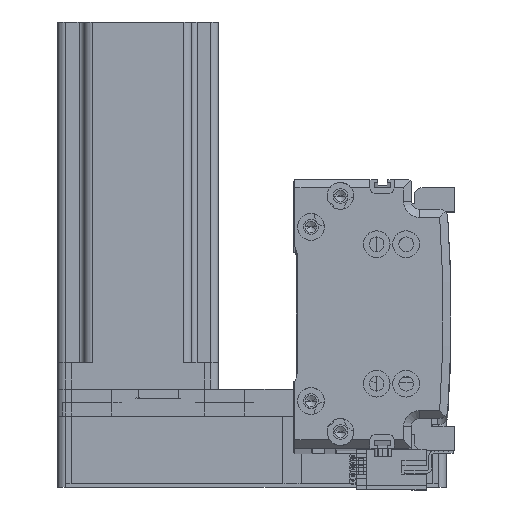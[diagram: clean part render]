
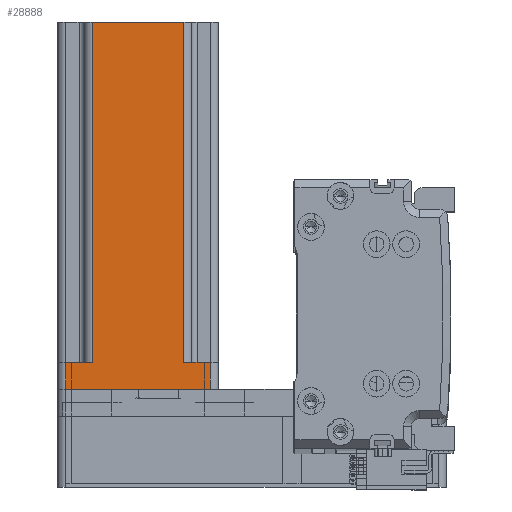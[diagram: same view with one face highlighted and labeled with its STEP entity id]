
A CAD part, top view. The second image highlights one B-rep face of the part: STEP entity #28888.
In plain terms, the highlighted planar face has unit normal (0, 0, 1) as drawn and (1, 0, 0) by its records, which use the part's own axes.
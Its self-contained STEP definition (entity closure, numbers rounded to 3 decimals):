
#554 = ORIENTED_EDGE ( 'NONE', *, *, #26544, .T. ) ;
#1273 = DIRECTION ( 'NONE',  ( 0., 0., 1. ) ) ;
#2295 = ORIENTED_EDGE ( 'NONE', *, *, #29624, .F. ) ;
#2764 = AXIS2_PLACEMENT_3D ( 'NONE', #26709, #37195, #16378 ) ;
#3723 = LINE ( 'NONE', #20136, #21026 ) ;
#3902 = VERTEX_POINT ( 'NONE', #20637 ) ;
#4096 = VERTEX_POINT ( 'NONE', #24670 ) ;
#4184 = VERTEX_POINT ( 'NONE', #18466 ) ;
#4418 = DIRECTION ( 'NONE',  ( 0., 0., -1. ) ) ;
#5638 = LINE ( 'NONE', #11360, #15917 ) ;
#6393 = EDGE_LOOP ( 'NONE', ( #2295, #25898, #25610, #554, #41003, #8952, #32416, #22923 ) ) ;
#6962 = DIRECTION ( 'NONE',  ( 0., -1., 0. ) ) ;
#8184 = CARTESIAN_POINT ( 'NONE',  ( 30., -30., 0. ) ) ;
#8952 = ORIENTED_EDGE ( 'NONE', *, *, #22117, .T. ) ;
#8964 = EDGE_CURVE ( 'NONE', #41907, #41928, #19470, .T. ) ;
#11360 = CARTESIAN_POINT ( 'NONE',  ( 30., 17., 137. ) ) ;
#11969 = CARTESIAN_POINT ( 'NONE',  ( 30., -17., 10. ) ) ;
#13622 = LINE ( 'NONE', #21328, #39215 ) ;
#15000 = CARTESIAN_POINT ( 'NONE',  ( 30., 27., 10. ) ) ;
#15058 = CARTESIAN_POINT ( 'NONE',  ( 30., -27., 137. ) ) ;
#15917 = VECTOR ( 'NONE', #42624, 1000. ) ;
#15964 = CARTESIAN_POINT ( 'NONE',  ( 30., 30., 10. ) ) ;
#16378 = DIRECTION ( 'NONE',  ( 0., 0., 1. ) ) ;
#18222 = EDGE_CURVE ( 'NONE', #3902, #4096, #21158, .T. ) ;
#18249 = LINE ( 'NONE', #15058, #37802 ) ;
#18466 = CARTESIAN_POINT ( 'NONE',  ( 30., 17., 137. ) ) ;
#18749 = CARTESIAN_POINT ( 'NONE',  ( 30., -17., 137. ) ) ;
#19459 = DIRECTION ( 'NONE',  ( 0., 1., 0. ) ) ;
#19470 = LINE ( 'NONE', #42639, #37978 ) ;
#19742 = EDGE_CURVE ( 'NONE', #41928, #34832, #3723, .T. ) ;
#20136 = CARTESIAN_POINT ( 'NONE',  ( 30., -30., 10. ) ) ;
#20637 = CARTESIAN_POINT ( 'NONE',  ( 30., -27., 0. ) ) ;
#21026 = VECTOR ( 'NONE', #6962, 1000. ) ;
#21158 = LINE ( 'NONE', #8184, #30399 ) ;
#21328 = CARTESIAN_POINT ( 'NONE',  ( 30., -30., 137. ) ) ;
#22117 = EDGE_CURVE ( 'NONE', #4096, #35309, #34441, .T. ) ;
#22923 = ORIENTED_EDGE ( 'NONE', *, *, #28122, .T. ) ;
#24600 = LINE ( 'NONE', #15964, #42028 ) ;
#24670 = CARTESIAN_POINT ( 'NONE',  ( 30., 27., 0. ) ) ;
#25197 = VECTOR ( 'NONE', #1273, 1000. ) ;
#25539 = CARTESIAN_POINT ( 'NONE',  ( 30., 27., 137. ) ) ;
#25610 = ORIENTED_EDGE ( 'NONE', *, *, #19742, .T. ) ;
#25898 = ORIENTED_EDGE ( 'NONE', *, *, #8964, .T. ) ;
#26544 = EDGE_CURVE ( 'NONE', #34832, #3902, #18249, .T. ) ;
#26709 = CARTESIAN_POINT ( 'NONE',  ( 30., -30., 137. ) ) ;
#27026 = CARTESIAN_POINT ( 'NONE',  ( 30., 17., 10. ) ) ;
#28122 = EDGE_CURVE ( 'NONE', #39264, #4184, #5638, .T. ) ;
#28321 = EDGE_CURVE ( 'NONE', #39264, #35309, #24600, .T. ) ;
#28888 = ADVANCED_FACE ( 'NONE', ( #41990 ), #37057, .F. ) ;
#28949 = DIRECTION ( 'NONE',  ( 0., 1., 0. ) ) ;
#29603 = CARTESIAN_POINT ( 'NONE',  ( 30., -27., 10. ) ) ;
#29624 = EDGE_CURVE ( 'NONE', #41907, #4184, #13622, .T. ) ;
#30399 = VECTOR ( 'NONE', #28949, 1000. ) ;
#32416 = ORIENTED_EDGE ( 'NONE', *, *, #28321, .F. ) ;
#34441 = LINE ( 'NONE', #25539, #25197 ) ;
#34832 = VERTEX_POINT ( 'NONE', #29603 ) ;
#35309 = VERTEX_POINT ( 'NONE', #15000 ) ;
#35883 = DIRECTION ( 'NONE',  ( 0., 0., -1. ) ) ;
#37057 = PLANE ( 'NONE',  #2764 ) ;
#37195 = DIRECTION ( 'NONE',  ( -1., 0., 0. ) ) ;
#37802 = VECTOR ( 'NONE', #35883, 1000. ) ;
#37978 = VECTOR ( 'NONE', #4418, 1000. ) ;
#38696 = DIRECTION ( 'NONE',  ( 0., 1., 0. ) ) ;
#39215 = VECTOR ( 'NONE', #38696, 1000. ) ;
#39264 = VERTEX_POINT ( 'NONE', #27026 ) ;
#41003 = ORIENTED_EDGE ( 'NONE', *, *, #18222, .T. ) ;
#41907 = VERTEX_POINT ( 'NONE', #18749 ) ;
#41928 = VERTEX_POINT ( 'NONE', #11969 ) ;
#41990 = FACE_OUTER_BOUND ( 'NONE', #6393, .T. ) ;
#42028 = VECTOR ( 'NONE', #19459, 1000. ) ;
#42624 = DIRECTION ( 'NONE',  ( 0., 0., 1. ) ) ;
#42639 = CARTESIAN_POINT ( 'NONE',  ( 30., -17., 10. ) ) ;
